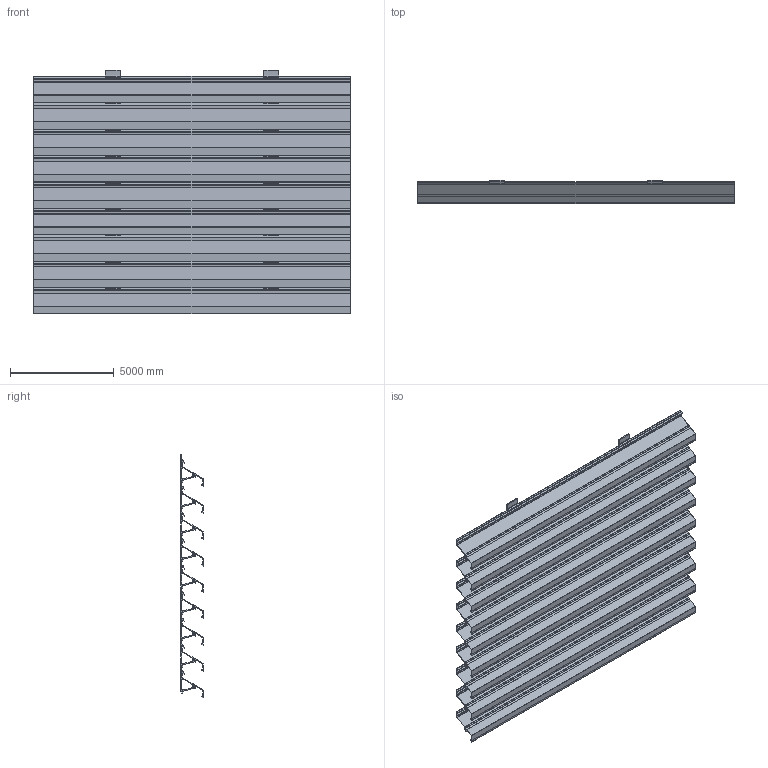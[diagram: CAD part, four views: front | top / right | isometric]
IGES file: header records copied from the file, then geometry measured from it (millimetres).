
Global section: file name: 3D_L_050HF; native system: AutoCAD 2023 - English; preprocessor: Autodesk Translation Framework DWG producer (atf_dwg_producer); organization: unknown; date: 20260203.132614; units: inch
Bounding box: 15240 x 1092.2 x 11738.12 mm (x, y, z)
Volume: 12536149974.2 mm3; surface area: 671326352.5 mm2
Topology: 11 solids, 11 shells, 1383 faces, 4092 edges, 2731 vertices
Faces by surface type: bspline 1383
